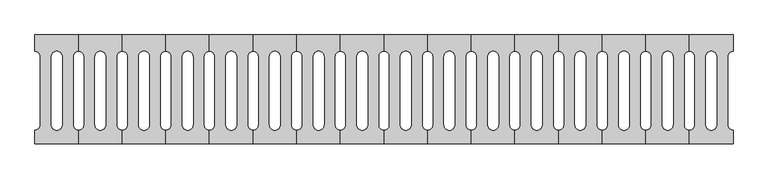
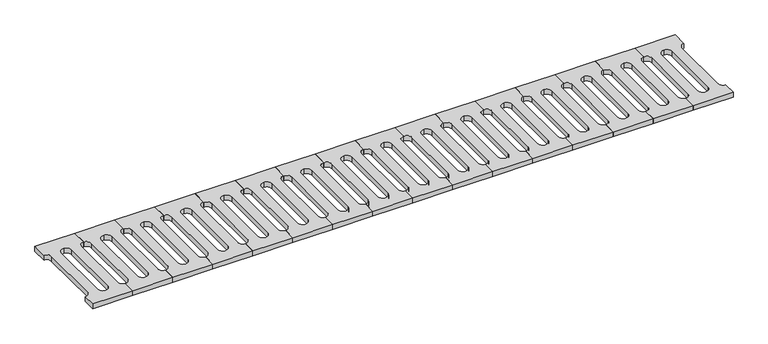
"""IFC4 building model written with IfcOpenShell, lengths in millimetres: proxy geometry, 排水沟盖板 : 排水沟盖板."""

from ifc_helpers import new_model, si_unit, point, frame, frame_2d, origin, place, context, project, spatial, polyline, circle_curve, trimmed, segment, composite_curve, outline, extrude, source, transform, mapped, element, save


def generic_models_ba8f26eb(model_context):
    return source(origin(), model_context, "Body", "SweptSolid", [
        extrude(outline(composite_curve([segment(polyline([(2560.0, 200.0), (2560.0, 140.0)]), True, "CONTINUOUS"), segment(trimmed(circle_curve(frame_2d((2560.0, 120.0)), 20.0), [point((2560.0, 140.0))], [point((2540.0, 120.0))], True, "CARTESIAN"), True, "CONTINUOUS"), segment(polyline([(2540.0, 120.0), (2540.0, -130.0)]), True, "CONTINUOUS"), segment(trimmed(circle_curve(frame_2d((2560.0, -130.0)), 20.0), [point((2540.0, -130.0))], [point((2560.0, -150.0))], True, "CARTESIAN"), True, "CONTINUOUS"), segment(polyline([(2560.0, -150.0), (2560.0, -200.0), (2400.0, -200.0), (2400.0, -150.0)]), True, "CONTINUOUS"), segment(trimmed(circle_curve(frame_2d((2400.0, -130.0)), 20.0), [point((2400.0, -150.0))], [point((2420.0, -130.0))], True, "CARTESIAN"), True, "CONTINUOUS"), segment(polyline([(2420.0, -130.0), (2420.0, 120.0)]), True, "CONTINUOUS"), segment(trimmed(circle_curve(frame_2d((2400.0, 120.0)), 20.0), [point((2420.0, 120.0))], [point((2400.0, 140.0))], True, "CARTESIAN"), True, "CONTINUOUS"), segment(polyline([(2400.0, 140.0), (2400.0, 200.0), (2560.0, 200.0)]), True, "CONTINUOUS")], self_intersect=False), holes=[composite_curve([segment(trimmed(circle_curve(frame_2d((2480.0, -130.0)), 20.0), [point((2460.0, -130.0))], [point((2480.0, -150.0))], True, "CARTESIAN"), True, "CONTINUOUS"), segment(trimmed(circle_curve(frame_2d((2480.0, -130.0)), 20.0), [point((2480.0, -150.0))], [point((2500.0, -130.0))], True, "CARTESIAN"), True, "CONTINUOUS"), segment(polyline([(2500.0, -130.0), (2500.0, 120.0)]), True, "CONTINUOUS"), segment(trimmed(circle_curve(frame_2d((2480.0, 120.0)), 20.0), [point((2500.0, 120.0))], [point((2480.0, 140.0))], True, "CARTESIAN"), True, "CONTINUOUS"), segment(trimmed(circle_curve(frame_2d((2480.0, 120.0)), 20.0), [point((2480.0, 140.0))], [point((2460.0, 120.0))], True, "CARTESIAN"), True, "CONTINUOUS"), segment(polyline([(2460.0, 120.0), (2460.0, -130.0)]), True, "CONTINUOUS")], self_intersect=False)]), frame((0.0, 0.0, -20.0), z_axis=(0.0, 0.0, 1.0), x_axis=(1.0, 0.0, 0.0)), (0.0, 0.0, 1.0), 20.0),
        extrude(outline(composite_curve([segment(polyline([(2400.0, 200.0), (2400.0, 140.0)]), True, "CONTINUOUS"), segment(trimmed(circle_curve(frame_2d((2400.0, 120.0)), 20.0), [point((2400.0, 140.0))], [point((2380.0, 120.0))], True, "CARTESIAN"), True, "CONTINUOUS"), segment(polyline([(2380.0, 120.0), (2380.0, -130.0)]), True, "CONTINUOUS"), segment(trimmed(circle_curve(frame_2d((2400.0, -130.0)), 20.0), [point((2380.0, -130.0))], [point((2400.0, -150.0))], True, "CARTESIAN"), True, "CONTINUOUS"), segment(polyline([(2400.0, -150.0), (2400.0, -200.0), (2240.0, -200.0), (2240.0, -150.0)]), True, "CONTINUOUS"), segment(trimmed(circle_curve(frame_2d((2240.0, -130.0)), 20.0), [point((2240.0, -150.0))], [point((2260.0, -130.0))], True, "CARTESIAN"), True, "CONTINUOUS"), segment(polyline([(2260.0, -130.0), (2260.0, 120.0)]), True, "CONTINUOUS"), segment(trimmed(circle_curve(frame_2d((2240.0, 120.0)), 20.0), [point((2260.0, 120.0))], [point((2240.0, 140.0))], True, "CARTESIAN"), True, "CONTINUOUS"), segment(polyline([(2240.0, 140.0), (2240.0, 200.0), (2400.0, 200.0)]), True, "CONTINUOUS")], self_intersect=False), holes=[composite_curve([segment(trimmed(circle_curve(frame_2d((2320.0, -130.0)), 20.0), [point((2300.0, -130.0))], [point((2320.0, -150.0))], True, "CARTESIAN"), True, "CONTINUOUS"), segment(trimmed(circle_curve(frame_2d((2320.0, -130.0)), 20.0), [point((2320.0, -150.0))], [point((2340.0, -130.0))], True, "CARTESIAN"), True, "CONTINUOUS"), segment(polyline([(2340.0, -130.0), (2340.0, 120.0)]), True, "CONTINUOUS"), segment(trimmed(circle_curve(frame_2d((2320.0, 120.0)), 20.0), [point((2340.0, 120.0))], [point((2320.0, 140.0))], True, "CARTESIAN"), True, "CONTINUOUS"), segment(trimmed(circle_curve(frame_2d((2320.0, 120.0)), 20.0), [point((2320.0, 140.0))], [point((2300.0, 120.0))], True, "CARTESIAN"), True, "CONTINUOUS"), segment(polyline([(2300.0, 120.0), (2300.0, -130.0)]), True, "CONTINUOUS")], self_intersect=False)]), frame((0.0, 0.0, -20.0), z_axis=(0.0, 0.0, 1.0), x_axis=(1.0, 0.0, 0.0)), (0.0, 0.0, 1.0), 20.0),
        extrude(outline(composite_curve([segment(polyline([(2240.0, 200.0), (2240.0, 140.0)]), True, "CONTINUOUS"), segment(trimmed(circle_curve(frame_2d((2240.0, 120.0)), 20.0), [point((2240.0, 140.0))], [point((2220.0, 120.0))], True, "CARTESIAN"), True, "CONTINUOUS"), segment(polyline([(2220.0, 120.0), (2220.0, -130.0)]), True, "CONTINUOUS"), segment(trimmed(circle_curve(frame_2d((2240.0, -130.0)), 20.0), [point((2220.0, -130.0))], [point((2240.0, -150.0))], True, "CARTESIAN"), True, "CONTINUOUS"), segment(polyline([(2240.0, -150.0), (2240.0, -200.0), (2080.0, -200.0), (2080.0, -150.0)]), True, "CONTINUOUS"), segment(trimmed(circle_curve(frame_2d((2080.0, -130.0)), 20.0), [point((2080.0, -150.0))], [point((2100.0, -130.0))], True, "CARTESIAN"), True, "CONTINUOUS"), segment(polyline([(2100.0, -130.0), (2100.0, 120.0)]), True, "CONTINUOUS"), segment(trimmed(circle_curve(frame_2d((2080.0, 120.0)), 20.0), [point((2100.0, 120.0))], [point((2080.0, 140.0))], True, "CARTESIAN"), True, "CONTINUOUS"), segment(polyline([(2080.0, 140.0), (2080.0, 200.0), (2240.0, 200.0)]), True, "CONTINUOUS")], self_intersect=False), holes=[composite_curve([segment(trimmed(circle_curve(frame_2d((2160.0, -130.0)), 20.0), [point((2140.0, -130.0))], [point((2160.0, -150.0))], True, "CARTESIAN"), True, "CONTINUOUS"), segment(trimmed(circle_curve(frame_2d((2160.0, -130.0)), 20.0), [point((2160.0, -150.0))], [point((2180.0, -130.0))], True, "CARTESIAN"), True, "CONTINUOUS"), segment(polyline([(2180.0, -130.0), (2180.0, 120.0)]), True, "CONTINUOUS"), segment(trimmed(circle_curve(frame_2d((2160.0, 120.0)), 20.0), [point((2180.0, 120.0))], [point((2160.0, 140.0))], True, "CARTESIAN"), True, "CONTINUOUS"), segment(trimmed(circle_curve(frame_2d((2160.0, 120.0)), 20.0), [point((2160.0, 140.0))], [point((2140.0, 120.0))], True, "CARTESIAN"), True, "CONTINUOUS"), segment(polyline([(2140.0, 120.0), (2140.0, -130.0)]), True, "CONTINUOUS")], self_intersect=False)]), frame((0.0, 0.0, -20.0), z_axis=(0.0, 0.0, 1.0), x_axis=(1.0, 0.0, 0.0)), (0.0, 0.0, 1.0), 20.0),
        extrude(outline(composite_curve([segment(polyline([(2080.0, 200.0), (2080.0, 140.0)]), True, "CONTINUOUS"), segment(trimmed(circle_curve(frame_2d((2080.0, 120.0)), 20.0), [point((2080.0, 140.0))], [point((2060.0, 120.0))], True, "CARTESIAN"), True, "CONTINUOUS"), segment(polyline([(2060.0, 120.0), (2060.0, -130.0)]), True, "CONTINUOUS"), segment(trimmed(circle_curve(frame_2d((2080.0, -130.0)), 20.0), [point((2060.0, -130.0))], [point((2080.0, -150.0))], True, "CARTESIAN"), True, "CONTINUOUS"), segment(polyline([(2080.0, -150.0), (2080.0, -200.0), (1920.0, -200.0), (1920.0, -150.0)]), True, "CONTINUOUS"), segment(trimmed(circle_curve(frame_2d((1920.0, -130.0)), 20.0), [point((1920.0, -150.0))], [point((1940.0, -130.0))], True, "CARTESIAN"), True, "CONTINUOUS"), segment(polyline([(1940.0, -130.0), (1940.0, 120.0)]), True, "CONTINUOUS"), segment(trimmed(circle_curve(frame_2d((1920.0, 120.0)), 20.0), [point((1940.0, 120.0))], [point((1920.0, 140.0))], True, "CARTESIAN"), True, "CONTINUOUS"), segment(polyline([(1920.0, 140.0), (1920.0, 200.0), (2080.0, 200.0)]), True, "CONTINUOUS")], self_intersect=False), holes=[composite_curve([segment(trimmed(circle_curve(frame_2d((2000.0, -130.0)), 20.0), [point((1980.0, -130.0))], [point((2000.0, -150.0))], True, "CARTESIAN"), True, "CONTINUOUS"), segment(trimmed(circle_curve(frame_2d((2000.0, -130.0)), 20.0), [point((2000.0, -150.0))], [point((2020.0, -130.0))], True, "CARTESIAN"), True, "CONTINUOUS"), segment(polyline([(2020.0, -130.0), (2020.0, 120.0)]), True, "CONTINUOUS"), segment(trimmed(circle_curve(frame_2d((2000.0, 120.0)), 20.0), [point((2020.0, 120.0))], [point((2000.0, 140.0))], True, "CARTESIAN"), True, "CONTINUOUS"), segment(trimmed(circle_curve(frame_2d((2000.0, 120.0)), 20.0), [point((2000.0, 140.0))], [point((1980.0, 120.0))], True, "CARTESIAN"), True, "CONTINUOUS"), segment(polyline([(1980.0, 120.0), (1980.0, -130.0)]), True, "CONTINUOUS")], self_intersect=False)]), frame((0.0, 0.0, -20.0), z_axis=(0.0, 0.0, 1.0), x_axis=(1.0, 0.0, 0.0)), (0.0, 0.0, 1.0), 20.0),
        extrude(outline(composite_curve([segment(polyline([(1920.0, 200.0), (1920.0, 140.0)]), True, "CONTINUOUS"), segment(trimmed(circle_curve(frame_2d((1920.0, 120.0)), 20.0), [point((1920.0, 140.0))], [point((1900.0, 120.0))], True, "CARTESIAN"), True, "CONTINUOUS"), segment(polyline([(1900.0, 120.0), (1900.0, -130.0)]), True, "CONTINUOUS"), segment(trimmed(circle_curve(frame_2d((1920.0, -130.0)), 20.0), [point((1900.0, -130.0))], [point((1920.0, -150.0))], True, "CARTESIAN"), True, "CONTINUOUS"), segment(polyline([(1920.0, -150.0), (1920.0, -200.0), (1760.0, -200.0), (1760.0, -150.0)]), True, "CONTINUOUS"), segment(trimmed(circle_curve(frame_2d((1760.0, -130.0)), 20.0), [point((1760.0, -150.0))], [point((1780.0, -130.0))], True, "CARTESIAN"), True, "CONTINUOUS"), segment(polyline([(1780.0, -130.0), (1780.0, 120.0)]), True, "CONTINUOUS"), segment(trimmed(circle_curve(frame_2d((1760.0, 120.0)), 20.0), [point((1780.0, 120.0))], [point((1760.0, 140.0))], True, "CARTESIAN"), True, "CONTINUOUS"), segment(polyline([(1760.0, 140.0), (1760.0, 200.0), (1920.0, 200.0)]), True, "CONTINUOUS")], self_intersect=False), holes=[composite_curve([segment(trimmed(circle_curve(frame_2d((1840.0, -130.0)), 20.0), [point((1820.0, -130.0))], [point((1840.0, -150.0))], True, "CARTESIAN"), True, "CONTINUOUS"), segment(trimmed(circle_curve(frame_2d((1840.0, -130.0)), 20.0), [point((1840.0, -150.0))], [point((1860.0, -130.0))], True, "CARTESIAN"), True, "CONTINUOUS"), segment(polyline([(1860.0, -130.0), (1860.0, 120.0)]), True, "CONTINUOUS"), segment(trimmed(circle_curve(frame_2d((1840.0, 120.0)), 20.0), [point((1860.0, 120.0))], [point((1840.0, 140.0))], True, "CARTESIAN"), True, "CONTINUOUS"), segment(trimmed(circle_curve(frame_2d((1840.0, 120.0)), 20.0), [point((1840.0, 140.0))], [point((1820.0, 120.0))], True, "CARTESIAN"), True, "CONTINUOUS"), segment(polyline([(1820.0, 120.0), (1820.0, -130.0)]), True, "CONTINUOUS")], self_intersect=False)]), frame((0.0, 0.0, -20.0), z_axis=(0.0, 0.0, 1.0), x_axis=(1.0, 0.0, 0.0)), (0.0, 0.0, 1.0), 20.0),
        extrude(outline(composite_curve([segment(polyline([(1760.0, 200.0), (1760.0, 140.0)]), True, "CONTINUOUS"), segment(trimmed(circle_curve(frame_2d((1760.0, 120.0)), 20.0), [point((1760.0, 140.0))], [point((1740.0, 120.0))], True, "CARTESIAN"), True, "CONTINUOUS"), segment(polyline([(1740.0, 120.0), (1740.0, -130.0)]), True, "CONTINUOUS"), segment(trimmed(circle_curve(frame_2d((1760.0, -130.0)), 20.0), [point((1740.0, -130.0))], [point((1760.0, -150.0))], True, "CARTESIAN"), True, "CONTINUOUS"), segment(polyline([(1760.0, -150.0), (1760.0, -200.0), (1600.0, -200.0), (1600.0, -150.0)]), True, "CONTINUOUS"), segment(trimmed(circle_curve(frame_2d((1600.0, -130.0)), 20.0), [point((1600.0, -150.0))], [point((1620.0, -130.0))], True, "CARTESIAN"), True, "CONTINUOUS"), segment(polyline([(1620.0, -130.0), (1620.0, 120.0)]), True, "CONTINUOUS"), segment(trimmed(circle_curve(frame_2d((1600.0, 120.0)), 20.0), [point((1620.0, 120.0))], [point((1600.0, 140.0))], True, "CARTESIAN"), True, "CONTINUOUS"), segment(polyline([(1600.0, 140.0), (1600.0, 200.0), (1760.0, 200.0)]), True, "CONTINUOUS")], self_intersect=False), holes=[composite_curve([segment(trimmed(circle_curve(frame_2d((1680.0, -130.0)), 20.0), [point((1660.0, -130.0))], [point((1680.0, -150.0))], True, "CARTESIAN"), True, "CONTINUOUS"), segment(trimmed(circle_curve(frame_2d((1680.0, -130.0)), 20.0), [point((1680.0, -150.0))], [point((1700.0, -130.0))], True, "CARTESIAN"), True, "CONTINUOUS"), segment(polyline([(1700.0, -130.0), (1700.0, 120.0)]), True, "CONTINUOUS"), segment(trimmed(circle_curve(frame_2d((1680.0, 120.0)), 20.0), [point((1700.0, 120.0))], [point((1680.0, 140.0))], True, "CARTESIAN"), True, "CONTINUOUS"), segment(trimmed(circle_curve(frame_2d((1680.0, 120.0)), 20.0), [point((1680.0, 140.0))], [point((1660.0, 120.0))], True, "CARTESIAN"), True, "CONTINUOUS"), segment(polyline([(1660.0, 120.0), (1660.0, -130.0)]), True, "CONTINUOUS")], self_intersect=False)]), frame((0.0, 0.0, -20.0), z_axis=(0.0, 0.0, 1.0), x_axis=(1.0, 0.0, 0.0)), (0.0, 0.0, 1.0), 20.0),
        extrude(outline(composite_curve([segment(polyline([(1600.0, 200.0), (1600.0, 140.0)]), True, "CONTINUOUS"), segment(trimmed(circle_curve(frame_2d((1600.0, 120.0)), 20.0), [point((1600.0, 140.0))], [point((1580.0, 120.0))], True, "CARTESIAN"), True, "CONTINUOUS"), segment(polyline([(1580.0, 120.0), (1580.0, -130.0)]), True, "CONTINUOUS"), segment(trimmed(circle_curve(frame_2d((1600.0, -130.0)), 20.0), [point((1580.0, -130.0))], [point((1600.0, -150.0))], True, "CARTESIAN"), True, "CONTINUOUS"), segment(polyline([(1600.0, -150.0), (1600.0, -200.0), (1440.0, -200.0), (1440.0, -150.0)]), True, "CONTINUOUS"), segment(trimmed(circle_curve(frame_2d((1440.0, -130.0)), 20.0), [point((1440.0, -150.0))], [point((1460.0, -130.0))], True, "CARTESIAN"), True, "CONTINUOUS"), segment(polyline([(1460.0, -130.0), (1460.0, 120.0)]), True, "CONTINUOUS"), segment(trimmed(circle_curve(frame_2d((1440.0, 120.0)), 20.0), [point((1460.0, 120.0))], [point((1440.0, 140.0))], True, "CARTESIAN"), True, "CONTINUOUS"), segment(polyline([(1440.0, 140.0), (1440.0, 200.0), (1600.0, 200.0)]), True, "CONTINUOUS")], self_intersect=False), holes=[composite_curve([segment(trimmed(circle_curve(frame_2d((1520.0, -130.0)), 20.0), [point((1500.0, -130.0))], [point((1520.0, -150.0))], True, "CARTESIAN"), True, "CONTINUOUS"), segment(trimmed(circle_curve(frame_2d((1520.0, -130.0)), 20.0), [point((1520.0, -150.0))], [point((1540.0, -130.0))], True, "CARTESIAN"), True, "CONTINUOUS"), segment(polyline([(1540.0, -130.0), (1540.0, 120.0)]), True, "CONTINUOUS"), segment(trimmed(circle_curve(frame_2d((1520.0, 120.0)), 20.0), [point((1540.0, 120.0))], [point((1520.0, 140.0))], True, "CARTESIAN"), True, "CONTINUOUS"), segment(trimmed(circle_curve(frame_2d((1520.0, 120.0)), 20.0), [point((1520.0, 140.0))], [point((1500.0, 120.0))], True, "CARTESIAN"), True, "CONTINUOUS"), segment(polyline([(1500.0, 120.0), (1500.0, -130.0)]), True, "CONTINUOUS")], self_intersect=False)]), frame((0.0, 0.0, -20.0), z_axis=(0.0, 0.0, 1.0), x_axis=(1.0, 0.0, 0.0)), (0.0, 0.0, 1.0), 20.0),
        extrude(outline(composite_curve([segment(polyline([(1440.0, 200.0), (1440.0, 140.0)]), True, "CONTINUOUS"), segment(trimmed(circle_curve(frame_2d((1440.0, 120.0)), 20.0), [point((1440.0, 140.0))], [point((1420.0, 120.0))], True, "CARTESIAN"), True, "CONTINUOUS"), segment(polyline([(1420.0, 120.0), (1420.0, -130.0)]), True, "CONTINUOUS"), segment(trimmed(circle_curve(frame_2d((1440.0, -130.0)), 20.0), [point((1420.0, -130.0))], [point((1440.0, -150.0))], True, "CARTESIAN"), True, "CONTINUOUS"), segment(polyline([(1440.0, -150.0), (1440.0, -200.0), (1280.0, -200.0), (1280.0, -150.0)]), True, "CONTINUOUS"), segment(trimmed(circle_curve(frame_2d((1280.0, -130.0)), 20.0), [point((1280.0, -150.0))], [point((1300.0, -130.0))], True, "CARTESIAN"), True, "CONTINUOUS"), segment(polyline([(1300.0, -130.0), (1300.0, 120.0)]), True, "CONTINUOUS"), segment(trimmed(circle_curve(frame_2d((1280.0, 120.0)), 20.0), [point((1300.0, 120.0))], [point((1280.0, 140.0))], True, "CARTESIAN"), True, "CONTINUOUS"), segment(polyline([(1280.0, 140.0), (1280.0, 200.0), (1440.0, 200.0)]), True, "CONTINUOUS")], self_intersect=False), holes=[composite_curve([segment(trimmed(circle_curve(frame_2d((1360.0, -130.0)), 20.0), [point((1340.0, -130.0))], [point((1360.0, -150.0))], True, "CARTESIAN"), True, "CONTINUOUS"), segment(trimmed(circle_curve(frame_2d((1360.0, -130.0)), 20.0), [point((1360.0, -150.0))], [point((1380.0, -130.0))], True, "CARTESIAN"), True, "CONTINUOUS"), segment(polyline([(1380.0, -130.0), (1380.0, 120.0)]), True, "CONTINUOUS"), segment(trimmed(circle_curve(frame_2d((1360.0, 120.0)), 20.0), [point((1380.0, 120.0))], [point((1360.0, 140.0))], True, "CARTESIAN"), True, "CONTINUOUS"), segment(trimmed(circle_curve(frame_2d((1360.0, 120.0)), 20.0), [point((1360.0, 140.0))], [point((1340.0, 120.0))], True, "CARTESIAN"), True, "CONTINUOUS"), segment(polyline([(1340.0, 120.0), (1340.0, -130.0)]), True, "CONTINUOUS")], self_intersect=False)]), frame((0.0, 0.0, -20.0), z_axis=(0.0, 0.0, 1.0), x_axis=(1.0, 0.0, 0.0)), (0.0, 0.0, 1.0), 20.0),
        extrude(outline(composite_curve([segment(polyline([(1280.0, 200.0), (1280.0, 140.0)]), True, "CONTINUOUS"), segment(trimmed(circle_curve(frame_2d((1280.0, 120.0)), 20.0), [point((1280.0, 140.0))], [point((1260.0, 120.0))], True, "CARTESIAN"), True, "CONTINUOUS"), segment(polyline([(1260.0, 120.0), (1260.0, -130.0)]), True, "CONTINUOUS"), segment(trimmed(circle_curve(frame_2d((1280.0, -130.0)), 20.0), [point((1260.0, -130.0))], [point((1280.0, -150.0))], True, "CARTESIAN"), True, "CONTINUOUS"), segment(polyline([(1280.0, -150.0), (1280.0, -200.0), (1120.0, -200.0), (1120.0, -150.0)]), True, "CONTINUOUS"), segment(trimmed(circle_curve(frame_2d((1120.0, -130.0)), 20.0), [point((1120.0, -150.0))], [point((1140.0, -130.0))], True, "CARTESIAN"), True, "CONTINUOUS"), segment(polyline([(1140.0, -130.0), (1140.0, 120.0)]), True, "CONTINUOUS"), segment(trimmed(circle_curve(frame_2d((1120.0, 120.0)), 20.0), [point((1140.0, 120.0))], [point((1120.0, 140.0))], True, "CARTESIAN"), True, "CONTINUOUS"), segment(polyline([(1120.0, 140.0), (1120.0, 200.0), (1280.0, 200.0)]), True, "CONTINUOUS")], self_intersect=False), holes=[composite_curve([segment(trimmed(circle_curve(frame_2d((1200.0, -130.0)), 20.0), [point((1180.0, -130.0))], [point((1200.0, -150.0))], True, "CARTESIAN"), True, "CONTINUOUS"), segment(trimmed(circle_curve(frame_2d((1200.0, -130.0)), 20.0), [point((1200.0, -150.0))], [point((1220.0, -130.0))], True, "CARTESIAN"), True, "CONTINUOUS"), segment(polyline([(1220.0, -130.0), (1220.0, 120.0)]), True, "CONTINUOUS"), segment(trimmed(circle_curve(frame_2d((1200.0, 120.0)), 20.0), [point((1220.0, 120.0))], [point((1200.0, 140.0))], True, "CARTESIAN"), True, "CONTINUOUS"), segment(trimmed(circle_curve(frame_2d((1200.0, 120.0)), 20.0), [point((1200.0, 140.0))], [point((1180.0, 120.0))], True, "CARTESIAN"), True, "CONTINUOUS"), segment(polyline([(1180.0, 120.0), (1180.0, -130.0)]), True, "CONTINUOUS")], self_intersect=False)]), frame((0.0, 0.0, -20.0), z_axis=(0.0, 0.0, 1.0), x_axis=(1.0, 0.0, 0.0)), (0.0, 0.0, 1.0), 20.0),
        extrude(outline(composite_curve([segment(polyline([(1120.0, 200.0), (1120.0, 140.0)]), True, "CONTINUOUS"), segment(trimmed(circle_curve(frame_2d((1120.0, 120.0)), 20.0), [point((1120.0, 140.0))], [point((1100.0, 120.0))], True, "CARTESIAN"), True, "CONTINUOUS"), segment(polyline([(1100.0, 120.0), (1100.0, -130.0)]), True, "CONTINUOUS"), segment(trimmed(circle_curve(frame_2d((1120.0, -130.0)), 20.0), [point((1100.0, -130.0))], [point((1120.0, -150.0))], True, "CARTESIAN"), True, "CONTINUOUS"), segment(polyline([(1120.0, -150.0), (1120.0, -200.0), (960.0, -200.0), (960.0, -150.0)]), True, "CONTINUOUS"), segment(trimmed(circle_curve(frame_2d((960.0, -130.0)), 20.0), [point((960.0, -150.0))], [point((980.0, -130.0))], True, "CARTESIAN"), True, "CONTINUOUS"), segment(polyline([(980.0, -130.0), (980.0, 120.0)]), True, "CONTINUOUS"), segment(trimmed(circle_curve(frame_2d((960.0, 120.0)), 20.0), [point((980.0, 120.0))], [point((960.0, 140.0))], True, "CARTESIAN"), True, "CONTINUOUS"), segment(polyline([(960.0, 140.0), (960.0, 200.0), (1120.0, 200.0)]), True, "CONTINUOUS")], self_intersect=False), holes=[composite_curve([segment(trimmed(circle_curve(frame_2d((1040.0, -130.0)), 20.0), [point((1020.0, -130.0))], [point((1040.0, -150.0))], True, "CARTESIAN"), True, "CONTINUOUS"), segment(trimmed(circle_curve(frame_2d((1040.0, -130.0)), 20.0), [point((1040.0, -150.0))], [point((1060.0, -130.0))], True, "CARTESIAN"), True, "CONTINUOUS"), segment(polyline([(1060.0, -130.0), (1060.0, 120.0)]), True, "CONTINUOUS"), segment(trimmed(circle_curve(frame_2d((1040.0, 120.0)), 20.0), [point((1060.0, 120.0))], [point((1040.0, 140.0))], True, "CARTESIAN"), True, "CONTINUOUS"), segment(trimmed(circle_curve(frame_2d((1040.0, 120.0)), 20.0), [point((1040.0, 140.0))], [point((1020.0, 120.0))], True, "CARTESIAN"), True, "CONTINUOUS"), segment(polyline([(1020.0, 120.0), (1020.0, -130.0)]), True, "CONTINUOUS")], self_intersect=False)]), frame((0.0, 0.0, -20.0), z_axis=(0.0, 0.0, 1.0), x_axis=(1.0, 0.0, 0.0)), (0.0, 0.0, 1.0), 20.0),
        extrude(outline(composite_curve([segment(polyline([(960.0, 200.0), (960.0, 140.0)]), True, "CONTINUOUS"), segment(trimmed(circle_curve(frame_2d((960.0, 120.0)), 20.0), [point((960.0, 140.0))], [point((940.0, 120.0))], True, "CARTESIAN"), True, "CONTINUOUS"), segment(polyline([(940.0, 120.0), (940.0, -130.0)]), True, "CONTINUOUS"), segment(trimmed(circle_curve(frame_2d((960.0, -130.0)), 20.0), [point((940.0, -130.0))], [point((960.0, -150.0))], True, "CARTESIAN"), True, "CONTINUOUS"), segment(polyline([(960.0, -150.0), (960.0, -200.0), (800.0, -200.0), (800.0, -150.0)]), True, "CONTINUOUS"), segment(trimmed(circle_curve(frame_2d((800.0, -130.0)), 20.0), [point((800.0, -150.0))], [point((820.0, -130.0))], True, "CARTESIAN"), True, "CONTINUOUS"), segment(polyline([(820.0, -130.0), (820.0, 120.0)]), True, "CONTINUOUS"), segment(trimmed(circle_curve(frame_2d((800.0, 120.0)), 20.0), [point((820.0, 120.0))], [point((800.0, 140.0))], True, "CARTESIAN"), True, "CONTINUOUS"), segment(polyline([(800.0, 140.0), (800.0, 200.0), (960.0, 200.0)]), True, "CONTINUOUS")], self_intersect=False), holes=[composite_curve([segment(trimmed(circle_curve(frame_2d((880.0, -130.0)), 20.0), [point((860.0, -130.0))], [point((880.0, -150.0))], True, "CARTESIAN"), True, "CONTINUOUS"), segment(trimmed(circle_curve(frame_2d((880.0, -130.0)), 20.0), [point((880.0, -150.0))], [point((900.0, -130.0))], True, "CARTESIAN"), True, "CONTINUOUS"), segment(polyline([(900.0, -130.0), (900.0, 120.0)]), True, "CONTINUOUS"), segment(trimmed(circle_curve(frame_2d((880.0, 120.0)), 20.0), [point((900.0, 120.0))], [point((880.0, 140.0))], True, "CARTESIAN"), True, "CONTINUOUS"), segment(trimmed(circle_curve(frame_2d((880.0, 120.0)), 20.0), [point((880.0, 140.0))], [point((860.0, 120.0))], True, "CARTESIAN"), True, "CONTINUOUS"), segment(polyline([(860.0, 120.0), (860.0, -130.0)]), True, "CONTINUOUS")], self_intersect=False)]), frame((0.0, 0.0, -20.0), z_axis=(0.0, 0.0, 1.0), x_axis=(1.0, 0.0, 0.0)), (0.0, 0.0, 1.0), 20.0),
        extrude(outline(composite_curve([segment(polyline([(800.0, 200.0), (800.0, 140.0)]), True, "CONTINUOUS"), segment(trimmed(circle_curve(frame_2d((800.0, 120.0)), 20.0), [point((800.0, 140.0))], [point((780.0, 120.0))], True, "CARTESIAN"), True, "CONTINUOUS"), segment(polyline([(780.0, 120.0), (780.0, -130.0)]), True, "CONTINUOUS"), segment(trimmed(circle_curve(frame_2d((800.0, -130.0)), 20.0), [point((780.0, -130.0))], [point((800.0, -150.0))], True, "CARTESIAN"), True, "CONTINUOUS"), segment(polyline([(800.0, -150.0), (800.0, -200.0), (640.0, -200.0), (640.0, -150.0)]), True, "CONTINUOUS"), segment(trimmed(circle_curve(frame_2d((640.0, -130.0)), 20.0), [point((640.0, -150.0))], [point((660.0, -130.0))], True, "CARTESIAN"), True, "CONTINUOUS"), segment(polyline([(660.0, -130.0), (660.0, 120.0)]), True, "CONTINUOUS"), segment(trimmed(circle_curve(frame_2d((640.0, 120.0)), 20.0), [point((660.0, 120.0))], [point((640.0, 140.0))], True, "CARTESIAN"), True, "CONTINUOUS"), segment(polyline([(640.0, 140.0), (640.0, 200.0), (800.0, 200.0)]), True, "CONTINUOUS")], self_intersect=False), holes=[composite_curve([segment(trimmed(circle_curve(frame_2d((720.0, -130.0)), 20.0), [point((700.0, -130.0))], [point((720.0, -150.0))], True, "CARTESIAN"), True, "CONTINUOUS"), segment(trimmed(circle_curve(frame_2d((720.0, -130.0)), 20.0), [point((720.0, -150.0))], [point((740.0, -130.0))], True, "CARTESIAN"), True, "CONTINUOUS"), segment(polyline([(740.0, -130.0), (740.0, 120.0)]), True, "CONTINUOUS"), segment(trimmed(circle_curve(frame_2d((720.0, 120.0)), 20.0), [point((740.0, 120.0))], [point((720.0, 140.0))], True, "CARTESIAN"), True, "CONTINUOUS"), segment(trimmed(circle_curve(frame_2d((720.0, 120.0)), 20.0), [point((720.0, 140.0))], [point((700.0, 120.0))], True, "CARTESIAN"), True, "CONTINUOUS"), segment(polyline([(700.0, 120.0), (700.0, -130.0)]), True, "CONTINUOUS")], self_intersect=False)]), frame((0.0, 0.0, -20.0), z_axis=(0.0, 0.0, 1.0), x_axis=(1.0, 0.0, 0.0)), (0.0, 0.0, 1.0), 20.0),
        extrude(outline(composite_curve([segment(polyline([(640.0, 200.0), (640.0, 140.0)]), True, "CONTINUOUS"), segment(trimmed(circle_curve(frame_2d((640.0, 120.0)), 20.0), [point((640.0, 140.0))], [point((620.0, 120.0))], True, "CARTESIAN"), True, "CONTINUOUS"), segment(polyline([(620.0, 120.0), (620.0, -130.0)]), True, "CONTINUOUS"), segment(trimmed(circle_curve(frame_2d((640.0, -130.0)), 20.0), [point((620.0, -130.0))], [point((640.0, -150.0))], True, "CARTESIAN"), True, "CONTINUOUS"), segment(polyline([(640.0, -150.0), (640.0, -200.0), (480.0, -200.0), (480.0, -150.0)]), True, "CONTINUOUS"), segment(trimmed(circle_curve(frame_2d((480.0, -130.0)), 20.0), [point((480.0, -150.0))], [point((500.0, -130.0))], True, "CARTESIAN"), True, "CONTINUOUS"), segment(polyline([(500.0, -130.0), (500.0, 120.0)]), True, "CONTINUOUS"), segment(trimmed(circle_curve(frame_2d((480.0, 120.0)), 20.0), [point((500.0, 120.0))], [point((480.0, 140.0))], True, "CARTESIAN"), True, "CONTINUOUS"), segment(polyline([(480.0, 140.0), (480.0, 200.0), (640.0, 200.0)]), True, "CONTINUOUS")], self_intersect=False), holes=[composite_curve([segment(trimmed(circle_curve(frame_2d((560.0, -130.0)), 20.0), [point((540.0, -130.0))], [point((560.0, -150.0))], True, "CARTESIAN"), True, "CONTINUOUS"), segment(trimmed(circle_curve(frame_2d((560.0, -130.0)), 20.0), [point((560.0, -150.0))], [point((580.0, -130.0))], True, "CARTESIAN"), True, "CONTINUOUS"), segment(polyline([(580.0, -130.0), (580.0, 120.0)]), True, "CONTINUOUS"), segment(trimmed(circle_curve(frame_2d((560.0, 120.0)), 20.0), [point((580.0, 120.0))], [point((560.0, 140.0))], True, "CARTESIAN"), True, "CONTINUOUS"), segment(trimmed(circle_curve(frame_2d((560.0, 120.0)), 20.0), [point((560.0, 140.0))], [point((540.0, 120.0))], True, "CARTESIAN"), True, "CONTINUOUS"), segment(polyline([(540.0, 120.0), (540.0, -130.0)]), True, "CONTINUOUS")], self_intersect=False)]), frame((0.0, 0.0, -20.0), z_axis=(0.0, 0.0, 1.0), x_axis=(1.0, 0.0, 0.0)), (0.0, 0.0, 1.0), 20.0),
        extrude(outline(composite_curve([segment(polyline([(480.0, 200.0), (480.0, 140.0)]), True, "CONTINUOUS"), segment(trimmed(circle_curve(frame_2d((480.0, 120.0)), 20.0), [point((480.0, 140.0))], [point((460.0, 120.0))], True, "CARTESIAN"), True, "CONTINUOUS"), segment(polyline([(460.0, 120.0), (460.0, -130.0)]), True, "CONTINUOUS"), segment(trimmed(circle_curve(frame_2d((480.0, -130.0)), 20.0), [point((460.0, -130.0))], [point((480.0, -150.0))], True, "CARTESIAN"), True, "CONTINUOUS"), segment(polyline([(480.0, -150.0), (480.0, -200.0), (320.0, -200.0), (320.0, -150.0)]), True, "CONTINUOUS"), segment(trimmed(circle_curve(frame_2d((320.0, -130.0)), 20.0), [point((320.0, -150.0))], [point((340.0, -130.0))], True, "CARTESIAN"), True, "CONTINUOUS"), segment(polyline([(340.0, -130.0), (340.0, 120.0)]), True, "CONTINUOUS"), segment(trimmed(circle_curve(frame_2d((320.0, 120.0)), 20.0), [point((340.0, 120.0))], [point((320.0, 140.0))], True, "CARTESIAN"), True, "CONTINUOUS"), segment(polyline([(320.0, 140.0), (320.0, 200.0), (480.0, 200.0)]), True, "CONTINUOUS")], self_intersect=False), holes=[composite_curve([segment(trimmed(circle_curve(frame_2d((400.0, -130.0)), 20.0), [point((380.0, -130.0))], [point((400.0, -150.0))], True, "CARTESIAN"), True, "CONTINUOUS"), segment(trimmed(circle_curve(frame_2d((400.0, -130.0)), 20.0), [point((400.0, -150.0))], [point((420.0, -130.0))], True, "CARTESIAN"), True, "CONTINUOUS"), segment(polyline([(420.0, -130.0), (420.0, 120.0)]), True, "CONTINUOUS"), segment(trimmed(circle_curve(frame_2d((400.0, 120.0)), 20.0), [point((420.0, 120.0))], [point((400.0, 140.0))], True, "CARTESIAN"), True, "CONTINUOUS"), segment(trimmed(circle_curve(frame_2d((400.0, 120.0)), 20.0), [point((400.0, 140.0))], [point((380.0, 120.0))], True, "CARTESIAN"), True, "CONTINUOUS"), segment(polyline([(380.0, 120.0), (380.0, -130.0)]), True, "CONTINUOUS")], self_intersect=False)]), frame((0.0, 0.0, -20.0), z_axis=(0.0, 0.0, 1.0), x_axis=(1.0, 0.0, 0.0)), (0.0, 0.0, 1.0), 20.0),
        extrude(outline(composite_curve([segment(polyline([(320.0, 200.0), (320.0, 140.0)]), True, "CONTINUOUS"), segment(trimmed(circle_curve(frame_2d((320.0, 120.0)), 20.0), [point((320.0, 140.0))], [point((300.0, 120.0))], True, "CARTESIAN"), True, "CONTINUOUS"), segment(polyline([(300.0, 120.0), (300.0, -130.0)]), True, "CONTINUOUS"), segment(trimmed(circle_curve(frame_2d((320.0, -130.0)), 20.0), [point((300.0, -130.0))], [point((320.0, -150.0))], True, "CARTESIAN"), True, "CONTINUOUS"), segment(polyline([(320.0, -150.0), (320.0, -200.0), (160.0, -200.0), (160.0, -150.0)]), True, "CONTINUOUS"), segment(trimmed(circle_curve(frame_2d((160.0, -130.0)), 20.0), [point((160.0, -150.0))], [point((180.0, -130.0))], True, "CARTESIAN"), True, "CONTINUOUS"), segment(polyline([(180.0, -130.0), (180.0, 120.0)]), True, "CONTINUOUS"), segment(trimmed(circle_curve(frame_2d((160.0, 120.0)), 20.0), [point((180.0, 120.0))], [point((160.0, 140.0))], True, "CARTESIAN"), True, "CONTINUOUS"), segment(polyline([(160.0, 140.0), (160.0, 200.0), (320.0, 200.0)]), True, "CONTINUOUS")], self_intersect=False), holes=[composite_curve([segment(trimmed(circle_curve(frame_2d((240.0, -130.0)), 20.0), [point((220.0, -130.0))], [point((240.0, -150.0))], True, "CARTESIAN"), True, "CONTINUOUS"), segment(trimmed(circle_curve(frame_2d((240.0, -130.0)), 20.0), [point((240.0, -150.0))], [point((260.0, -130.0))], True, "CARTESIAN"), True, "CONTINUOUS"), segment(polyline([(260.0, -130.0), (260.0, 120.0)]), True, "CONTINUOUS"), segment(trimmed(circle_curve(frame_2d((240.0, 120.0)), 20.0), [point((260.0, 120.0))], [point((240.0, 140.0))], True, "CARTESIAN"), True, "CONTINUOUS"), segment(trimmed(circle_curve(frame_2d((240.0, 120.0)), 20.0), [point((240.0, 140.0))], [point((220.0, 120.0))], True, "CARTESIAN"), True, "CONTINUOUS"), segment(polyline([(220.0, 120.0), (220.0, -130.0)]), True, "CONTINUOUS")], self_intersect=False)]), frame((0.0, 0.0, -20.0), z_axis=(0.0, 0.0, 1.0), x_axis=(1.0, 0.0, 0.0)), (0.0, 0.0, 1.0), 20.0),
        extrude(outline(composite_curve([segment(polyline([(160.0, 200.0), (160.0, 140.0)]), True, "CONTINUOUS"), segment(trimmed(circle_curve(frame_2d((160.0, 120.0)), 20.0), [point((160.0, 140.0))], [point((140.0, 120.0))], True, "CARTESIAN"), True, "CONTINUOUS"), segment(polyline([(140.0, 120.0), (140.0, -130.0)]), True, "CONTINUOUS"), segment(trimmed(circle_curve(frame_2d((160.0, -130.0)), 20.0), [point((140.0, -130.0))], [point((160.0, -150.0))], True, "CARTESIAN"), True, "CONTINUOUS"), segment(polyline([(160.0, -150.0), (160.0, -200.0), (0.0, -200.0), (0.0, -150.0)]), True, "CONTINUOUS"), segment(trimmed(circle_curve(frame_2d((0.0, -130.0)), 20.0), [point((0.0, -150.0))], [point((20.0, -130.0))], True, "CARTESIAN"), True, "CONTINUOUS"), segment(polyline([(20.0, -130.0), (20.0, 120.0)]), True, "CONTINUOUS"), segment(trimmed(circle_curve(frame_2d((0.0, 120.0)), 20.0), [point((20.0, 120.0))], [point((0.0, 140.0))], True, "CARTESIAN"), True, "CONTINUOUS"), segment(polyline([(0.0, 140.0), (0.0, 200.0), (160.0, 200.0)]), True, "CONTINUOUS")], self_intersect=False), holes=[composite_curve([segment(trimmed(circle_curve(frame_2d((80.0, -130.0)), 20.0), [point((60.0, -130.0))], [point((80.0, -150.0))], True, "CARTESIAN"), True, "CONTINUOUS"), segment(trimmed(circle_curve(frame_2d((80.0, -130.0)), 20.0), [point((80.0, -150.0))], [point((100.0, -130.0))], True, "CARTESIAN"), True, "CONTINUOUS"), segment(polyline([(100.0, -130.0), (100.0, 120.0)]), True, "CONTINUOUS"), segment(trimmed(circle_curve(frame_2d((80.0, 120.0)), 20.0), [point((100.0, 120.0))], [point((80.0, 140.0))], True, "CARTESIAN"), True, "CONTINUOUS"), segment(trimmed(circle_curve(frame_2d((80.0, 120.0)), 20.0), [point((80.0, 140.0))], [point((60.0, 120.0))], True, "CARTESIAN"), True, "CONTINUOUS"), segment(polyline([(60.0, 120.0), (60.0, -130.0)]), True, "CONTINUOUS")], self_intersect=False)]), frame((0.0, 0.0, -20.0), z_axis=(0.0, 0.0, 1.0), x_axis=(1.0, 0.0, 0.0)), (0.0, 0.0, 1.0), 20.0),
    ])


if __name__ == "__main__":
    model = new_model("IFC4")
    model_context = context("Model", 3, world=origin())
    ifc_project = project(units=[si_unit("LENGTHUNIT", "METRE", prefix="MILLI")], contexts=[model_context])
    site = spatial("IfcSite", under=ifc_project)
    building = spatial("IfcBuilding", under=site)
    placement = place(None, origin())
    generic_models_shape = generic_models_ba8f26eb(model_context)
    element("IfcBuildingElementProxy", 1, Name="排水沟盖板 : 排水沟盖板", ObjectType="排水沟盖板 : 排水沟盖板", at=placement, inside=building, context=model_context, shape_type="MappedRepresentation", body=[
        mapped(generic_models_shape, transform((0.0, 0.0, 0.0), x_axis=(1.0, 0.0, 0.0), y_axis=(0.0, 1.0, 0.0), z_axis=(0.0, 0.0, 1.0))),
    ])
    save(model, "model.ifc")
